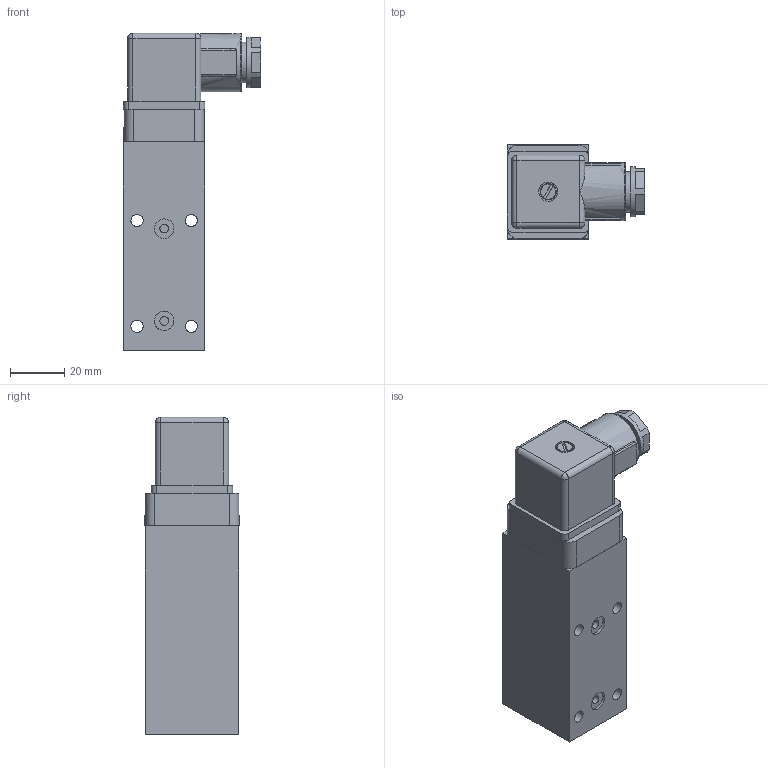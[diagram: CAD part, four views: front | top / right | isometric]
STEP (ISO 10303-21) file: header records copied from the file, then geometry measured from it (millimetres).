
FILE_DESCRIPTION((''),'2;1');
FILE_NAME('U:\Users\a.heinl\DG024.stp','2013-05-14T15:36:19',('User'), ('SDRC'),'I-DEAS Master Series 9','UNIX','Yes');
FILE_SCHEMA(('AUTOMOTIVE_DESIGN { 1 0 10303 214 1 1 1 1 }'));
Length unit declared in the file: millimetre
Products named in the file (1): 11288900(254427)
Bounding box: 50.5 x 34.71 x 117 mm (x, y, z)
Volume: 114706.2 mm3; surface area: 21106.6 mm2
Topology: 1 solids, 1 shells, 118 faces, 283 edges, 179 vertices
Faces by surface type: bspline 118
Entity records: 3617 total; most frequent: CARTESIAN_POINT 1916, ORIENTED_EDGE 552, EDGE_CURVE 276, VERTEX_POINT 174, EDGE_LOOP 140, B_SPLINE_CURVE_WITH_KNOTS 129, FACE_OUTER_BOUND 118, ADVANCED_FACE 118
